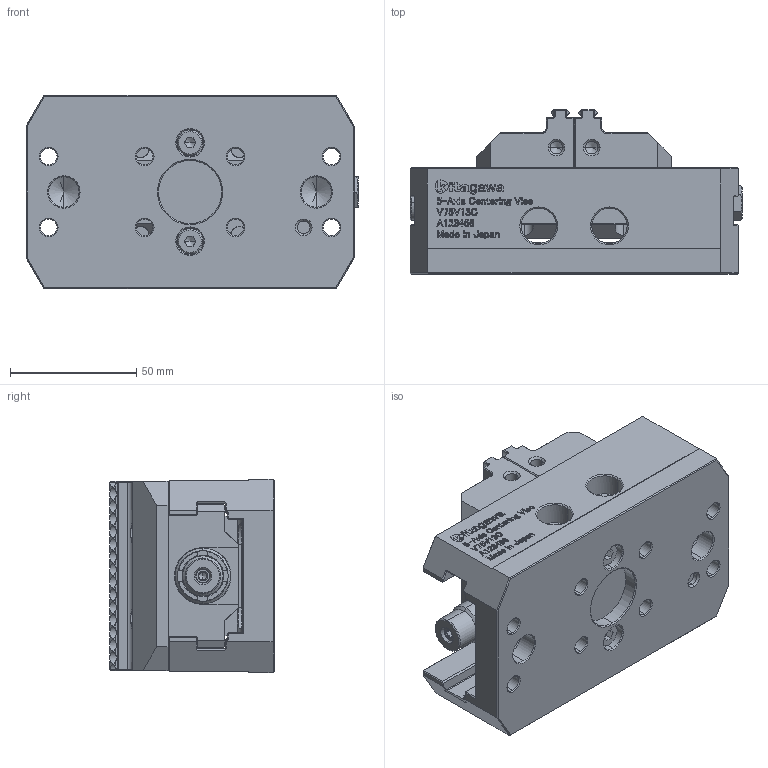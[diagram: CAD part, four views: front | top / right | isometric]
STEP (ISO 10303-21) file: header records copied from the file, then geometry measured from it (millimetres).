
FILE_DESCRIPTION (( 'STEP AP203' ), '1' );
FILE_NAME ('V75V13C_C.STEP', '2022-07-22T03:07:56', ( '' ), ( '' ), 'SwSTEP 2.0', 'SolidWorks 2020', '' );
FILE_SCHEMA (( 'CONFIG_CONTROL_DESIGN' ));
Length unit declared in the file: millimetre
Products named in the file (4): V75V13C_C; 005AMA0042; 61M856676; Part
Assembly tree (7 placements, depth 2):
  V75V13C_C
    61M856676  x2
    005AMA0042  x4
    Part
Bounding box: 131.5 x 65 x 76.5 mm (x, y, z)
Volume: 378496 mm3; surface area: 97843.6 mm2
Topology: 7 solids, 21 shells, 3103 faces, 8415 edges, 5439 vertices
Faces by surface type: plane 1784, bspline 562, cylinder 423, cone 324, torus 10
Entity records: 104428 total; most frequent: CARTESIAN_POINT 38276, ORIENTED_EDGE 14950, DIRECTION 11379, EDGE_CURVE 7475, LINE 5071, VECTOR 5071, VERTEX_POINT 4869, AXIS2_PLACEMENT_3D 3154
